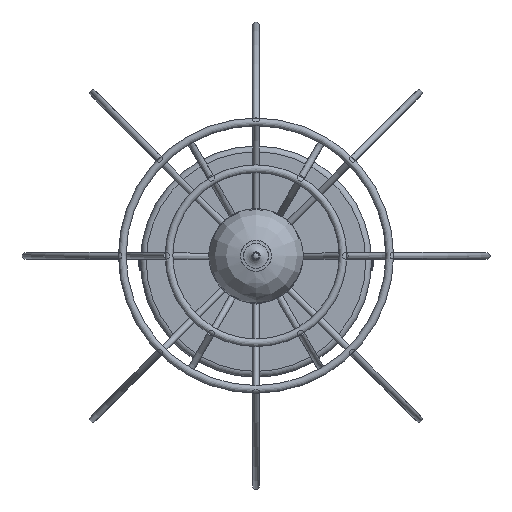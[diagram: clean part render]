
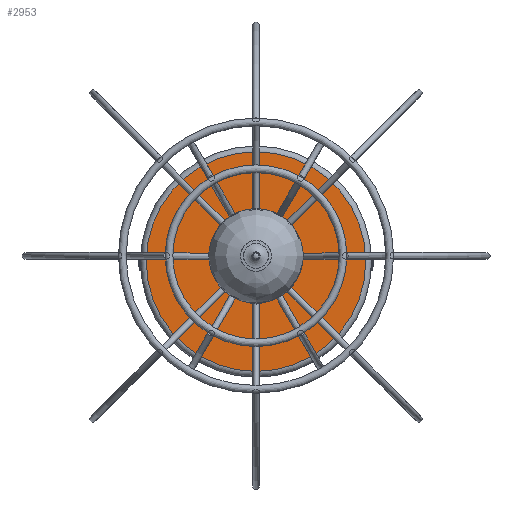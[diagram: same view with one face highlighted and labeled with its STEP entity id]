
A CAD part, top view. The second image highlights one B-rep face of the part: STEP entity #2953.
In plain terms, the highlighted planar face has unit normal (0, 0, 1).
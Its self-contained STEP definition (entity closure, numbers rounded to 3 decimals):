
#323=CIRCLE('',#3459,57.);
#716=FACE_OUTER_BOUND('',#940,.T.);
#940=EDGE_LOOP('',(#2636));
#1460=VERTEX_POINT('',#6165);
#1850=EDGE_CURVE('',#1460,#1460,#323,.T.);
#2636=ORIENTED_EDGE('',*,*,#1850,.F.);
#2739=PLANE('',#3463);
#2953=ADVANCED_FACE('',(#716),#2739,.F.);
#3459=AXIS2_PLACEMENT_3D('',#6167,#4441,#4442);
#3463=AXIS2_PLACEMENT_3D('',#6173,#4450,#4451);
#4441=DIRECTION('center_axis',(0.,0.,
-1.));
#4442=DIRECTION('ref_axis',(1.,0.,0.));
#4450=DIRECTION('center_axis',(0.,0.,
-1.));
#4451=DIRECTION('ref_axis',(1.,0.,0.));
#6165=CARTESIAN_POINT('',(57.,0.,-1554.971));
#6167=CARTESIAN_POINT('Origin',(0.,0.,
-1554.971));
#6173=CARTESIAN_POINT('Origin',(0.,0.,
-1554.971));
